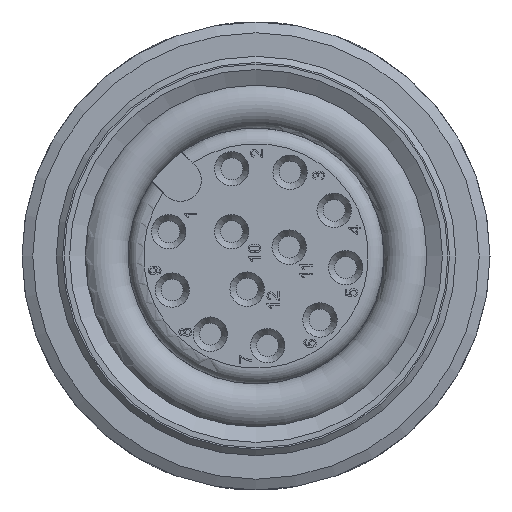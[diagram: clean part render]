
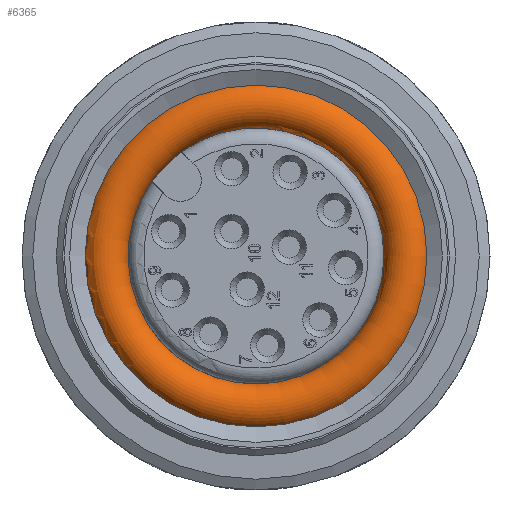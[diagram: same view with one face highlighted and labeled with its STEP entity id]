
A CAD part, left-side view. The second image highlights one B-rep face of the part: STEP entity #6365.
In plain terms, the highlighted toroidal (fillet/blend) face has major radius 4.845 mm and minor radius 0.75 mm.
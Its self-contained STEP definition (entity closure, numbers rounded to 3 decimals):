
#350=TOROIDAL_SURFACE('',#6895,4.845,0.75);
#1584=FACE_OUTER_BOUND('',#1979,.T.);
#1979=EDGE_LOOP('',(#4687,#4688,#4689,#4690,#4691,#4692,#4693,#4694,#4695,
#4696,#4697,#4698,#4699));
#2428=CIRCLE('',#6883,4.723);
#2429=CIRCLE('',#6885,0.74);
#2431=CIRCLE('',#6888,4.1);
#2432=CIRCLE('',#6889,4.1);
#2433=CIRCLE('',#6891,0.74);
#2434=CIRCLE('',#6893,4.1);
#2435=CIRCLE('',#6894,4.1);
#2436=CIRCLE('',#6896,5.475);
#2437=CIRCLE('',#6897,5.475);
#2438=CIRCLE('',#6898,0.75);
#2439=CIRCLE('',#6899,0.75);
#2696=VERTEX_POINT('',#11548);
#2698=VERTEX_POINT('',#11552);
#2700=VERTEX_POINT('',#11566);
#2701=VERTEX_POINT('',#11570);
#2703=VERTEX_POINT('',#11574);
#2705=VERTEX_POINT('',#11590);
#2706=VERTEX_POINT('',#11594);
#2707=VERTEX_POINT('',#11598);
#2708=VERTEX_POINT('',#11599);
#3435=EDGE_CURVE('',#2696,#2696,#2428,.T.);
#3440=EDGE_CURVE('',#2698,#2700,#2429,.T.);
#3443=EDGE_CURVE('',#2698,#2703,#2431,.T.);
#3444=EDGE_CURVE('',#2703,#2701,#2432,.T.);
#3447=EDGE_CURVE('',#2705,#2701,#2433,.T.);
#3449=EDGE_CURVE('',#2705,#2706,#2434,.T.);
#3450=EDGE_CURVE('',#2706,#2700,#2435,.T.);
#3451=EDGE_CURVE('',#2707,#2708,#2436,.T.);
#3452=EDGE_CURVE('',#2708,#2707,#2437,.T.);
#3453=EDGE_CURVE('',#2707,#2703,#2438,.T.);
#3454=EDGE_CURVE('',#2706,#2696,#2439,.T.);
#4687=ORIENTED_EDGE('',*,*,#3451,.T.);
#4688=ORIENTED_EDGE('',*,*,#3452,.T.);
#4689=ORIENTED_EDGE('',*,*,#3453,.T.);
#4690=ORIENTED_EDGE('',*,*,#3443,.F.);
#4691=ORIENTED_EDGE('',*,*,#3440,.T.);
#4692=ORIENTED_EDGE('',*,*,#3450,.F.);
#4693=ORIENTED_EDGE('',*,*,#3454,.T.);
#4694=ORIENTED_EDGE('',*,*,#3435,.F.);
#4695=ORIENTED_EDGE('',*,*,#3454,.F.);
#4696=ORIENTED_EDGE('',*,*,#3449,.F.);
#4697=ORIENTED_EDGE('',*,*,#3447,.T.);
#4698=ORIENTED_EDGE('',*,*,#3444,.F.);
#4699=ORIENTED_EDGE('',*,*,#3453,.F.);
#6365=ADVANCED_FACE('',(#1584),#350,.T.);
#6883=AXIS2_PLACEMENT_3D('',#11549,#7729,#7730);
#6885=AXIS2_PLACEMENT_3D('',#11568,#7736,#7737);
#6888=AXIS2_PLACEMENT_3D('',#11575,#7743,#7744);
#6889=AXIS2_PLACEMENT_3D('',#11576,#7745,#7746);
#6891=AXIS2_PLACEMENT_3D('',#11591,#7750,#7751);
#6893=AXIS2_PLACEMENT_3D('',#11595,#7755,#7756);
#6894=AXIS2_PLACEMENT_3D('',#11596,#7757,#7758);
#6895=AXIS2_PLACEMENT_3D('',#11597,#7759,#7760);
#6896=AXIS2_PLACEMENT_3D('',#11600,#7761,#7762);
#6897=AXIS2_PLACEMENT_3D('',#11601,#7763,#7764);
#6898=AXIS2_PLACEMENT_3D('',#11602,#7765,#7766);
#6899=AXIS2_PLACEMENT_3D('',#11603,#7767,#7768);
#7729=DIRECTION('center_axis',(-1.,0.,0.));
#7730=DIRECTION('ref_axis',(0.,0.,-1.));
#7736=DIRECTION('center_axis',(0.,-0.707,0.707));
#7737=DIRECTION('ref_axis',(0.117,-0.702,-0.702));
#7743=DIRECTION('center_axis',(-1.,0.,0.));
#7744=DIRECTION('ref_axis',(0.,0.,-1.));
#7745=DIRECTION('center_axis',(-1.,0.,0.));
#7746=DIRECTION('ref_axis',(0.,0.,-1.));
#7750=DIRECTION('center_axis',(0.,0.707,-0.707));
#7751=DIRECTION('ref_axis',(-0.117,-0.702,-0.702));
#7755=DIRECTION('center_axis',(1.,0.,0.));
#7756=DIRECTION('ref_axis',(0.,0.,1.));
#7757=DIRECTION('center_axis',(1.,0.,0.));
#7758=DIRECTION('ref_axis',(0.,0.,1.));
#7759=DIRECTION('center_axis',(1.,0.,0.));
#7760=DIRECTION('ref_axis',(0.,0.,1.));
#7761=DIRECTION('center_axis',(-1.,0.,0.));
#7762=DIRECTION('ref_axis',(0.,0.,-1.));
#7763=DIRECTION('center_axis',(-1.,0.,0.));
#7764=DIRECTION('ref_axis',(0.,0.,-1.));
#7765=DIRECTION('center_axis',(0.,1.,0.));
#7766=DIRECTION('ref_axis',(0.,0.,-1.));
#7767=DIRECTION('center_axis',(0.,1.,0.));
#7768=DIRECTION('ref_axis',(0.,0.,-1.));
#11548=CARTESIAN_POINT('',(9.25,0.,-4.723));
#11549=CARTESIAN_POINT('Origin',(9.25,0.,0.));
#11552=CARTESIAN_POINT('',(8.424,3.337,2.382));
#11566=CARTESIAN_POINT('',(8.596,3.337,2.382));
#11568=CARTESIAN_POINT('Origin',(8.51,3.856,2.902));
#11570=CARTESIAN_POINT('',(8.424,2.382,3.337));
#11574=CARTESIAN_POINT('',(8.424,0.,-4.1));
#11575=CARTESIAN_POINT('Origin',(8.424,0.,0.));
#11576=CARTESIAN_POINT('Origin',(8.424,0.,0.));
#11590=CARTESIAN_POINT('',(8.596,2.382,3.337));
#11591=CARTESIAN_POINT('Origin',(8.51,2.902,3.856));
#11594=CARTESIAN_POINT('',(8.596,0.,-4.1));
#11595=CARTESIAN_POINT('Origin',(8.596,0.,0.));
#11596=CARTESIAN_POINT('Origin',(8.596,0.,0.));
#11597=CARTESIAN_POINT('Origin',(8.51,0.,0.));
#11598=CARTESIAN_POINT('',(8.103,0.,-5.475));
#11599=CARTESIAN_POINT('',(8.103,5.475,0.));
#11600=CARTESIAN_POINT('Origin',(8.103,0.,0.));
#11601=CARTESIAN_POINT('Origin',(8.103,0.,0.));
#11602=CARTESIAN_POINT('Origin',(8.51,0.,-4.845));
#11603=CARTESIAN_POINT('Origin',(8.51,0.,-4.845));
